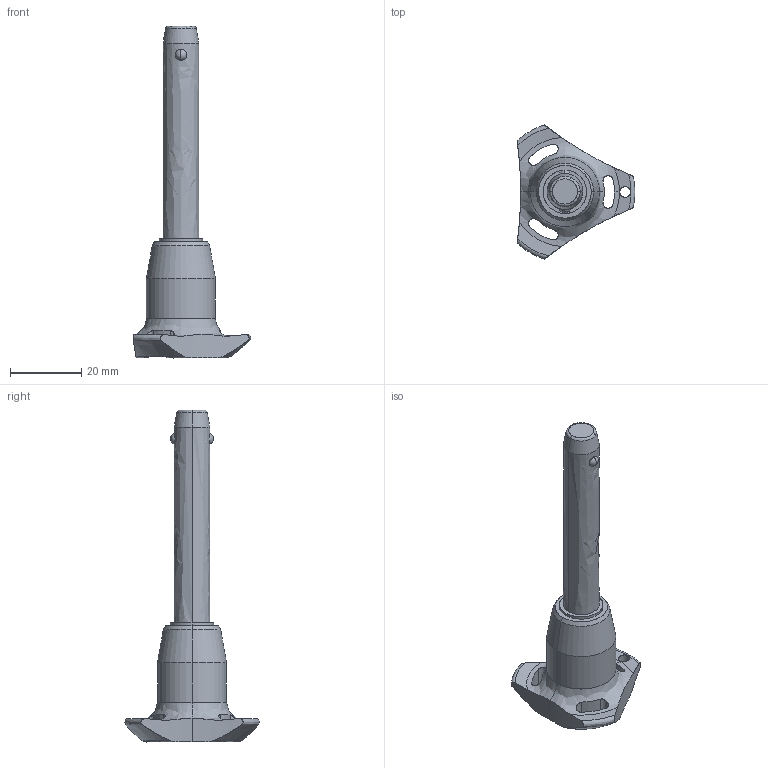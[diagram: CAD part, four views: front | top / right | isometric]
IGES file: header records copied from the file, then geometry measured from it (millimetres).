
Start section: SolidWorks IGES file using analytic representation for surfaces
Global section: file name: C:\Users\ianosborn\Desktop\QR1734_v2\QR1734_v2_20251113_IGES\QR1734.M10-050-S.igs; native system: SolidWorks 2019; preprocessor: SolidWorks 2019; author: IanOsborn; date: 251112.142603; units: millimetre
Bounding box: 33 x 37.51 x 92.9 mm (x, y, z)
Surface area: 5735.2 mm2 (no closed solid volume)
Topology: 0 solids, 0 shells, 65 faces, 1282 edges, 1278 vertices
Faces by surface type: revolution 50, bspline 15
